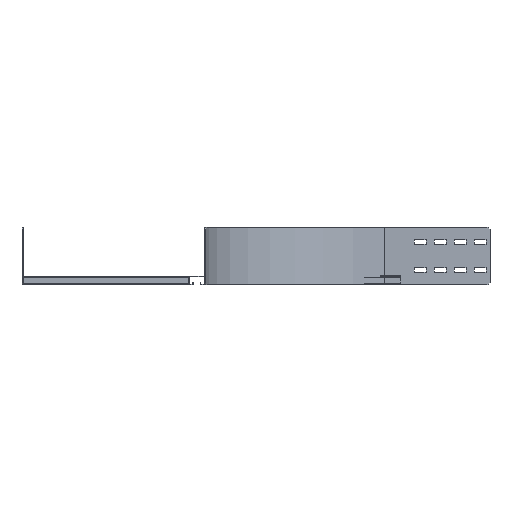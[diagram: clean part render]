
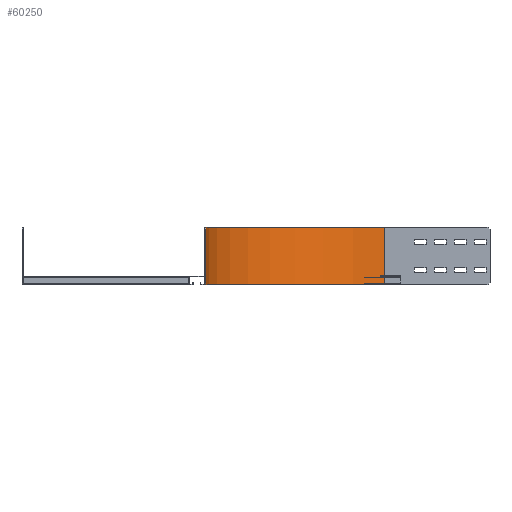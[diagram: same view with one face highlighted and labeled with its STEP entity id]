
A CAD part, left-side view. The second image highlights one B-rep face of the part: STEP entity #60250.
In plain terms, the highlighted cylindrical face has radius 447 mm (diameter 894 mm), a partial arc.
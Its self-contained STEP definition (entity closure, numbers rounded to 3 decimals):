
#37910=CARTESIAN_POINT('',(0.,-450.,0.));
#37920=DIRECTION('',(0.,0.,-1.));
#37930=DIRECTION('',(-1.,0.,0.));
#37940=AXIS2_PLACEMENT_3D('',#37910,#37920,#37930);
#37950=CIRCLE('',#37940,447.);
#37960=CARTESIAN_POINT('',(0.,-3.,0.));
#37970=VERTEX_POINT('',#37960);
#37980=CARTESIAN_POINT('',(447.,-450.,0.));
#37990=VERTEX_POINT('',#37980);
#38000=EDGE_CURVE('',#37970,#37990,#37950,.T.);
#42060=CARTESIAN_POINT('',(0.,-3.,-145.));
#42070=VERTEX_POINT('',#42060);
#42100=CARTESIAN_POINT('',(0.,-450.,-145.));
#42110=DIRECTION('',(0.,0.,-1.));
#42120=DIRECTION('',(-1.,0.,0.));
#42130=AXIS2_PLACEMENT_3D('',#42100,#42110,#42120);
#42140=CIRCLE('',#42130,447.);
#42150=CARTESIAN_POINT('',(447.,-450.,-145.));
#42160=VERTEX_POINT('',#42150);
#42170=EDGE_CURVE('',#42070,#42160,#42140,.T.);
#45830=CARTESIAN_POINT('',(447.,-450.,0.));
#45840=DIRECTION('',(0.,0.,-1.));
#45850=VECTOR('',#45840,1.);
#45860=LINE('',#45830,#45850);
#45870=EDGE_CURVE('',#37990,#42160,#45860,.T.);
#51630=CARTESIAN_POINT('',(0.,-3.,0.));
#51640=DIRECTION('',(0.,0.,-1.));
#51650=VECTOR('',#51640,1.);
#51660=LINE('',#51630,#51650);
#51670=EDGE_CURVE('',#37970,#42070,#51660,.T.);
#60140=CARTESIAN_POINT('',(0.,-450.,0.));
#60150=DIRECTION('',(0.,0.,-1.));
#60160=DIRECTION('',(-1.,0.,0.));
#60170=AXIS2_PLACEMENT_3D('',#60140,#60150,#60160);
#60180=CYLINDRICAL_SURFACE('',#60170,447.);
#60190=ORIENTED_EDGE('',*,*,#38000,.F.);
#60200=ORIENTED_EDGE('',*,*,#45870,.F.);
#60210=ORIENTED_EDGE('',*,*,#42170,.T.);
#60220=ORIENTED_EDGE('',*,*,#51670,.T.);
#60230=EDGE_LOOP('',(#60220,#60210,#60200,#60190));
#60240=FACE_OUTER_BOUND('',#60230,.T.);
#60250=ADVANCED_FACE('',(#60240),#60180,.F.);
